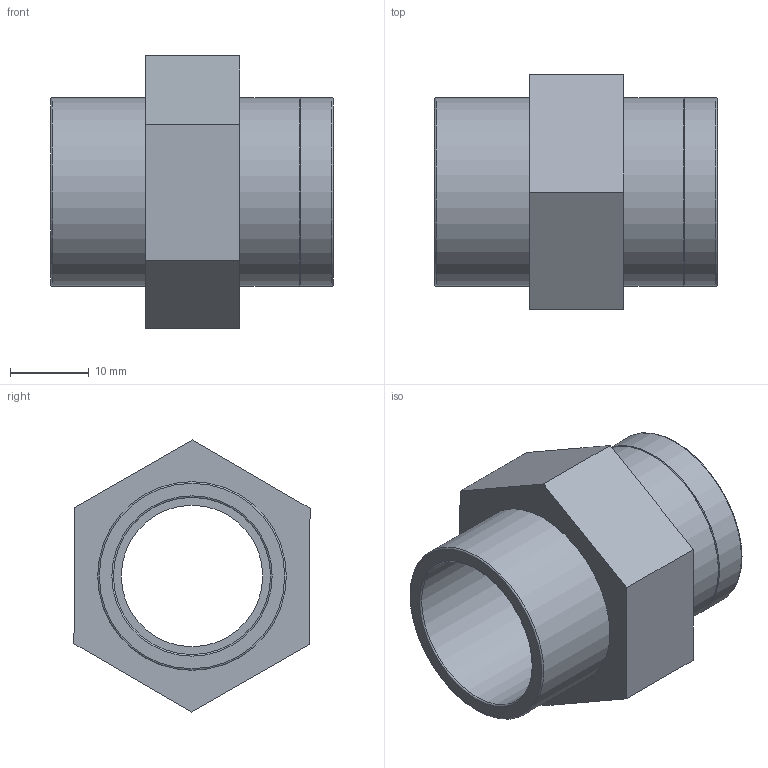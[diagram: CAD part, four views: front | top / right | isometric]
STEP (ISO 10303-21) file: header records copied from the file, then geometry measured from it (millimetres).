
FILE_DESCRIPTION(/* description */ ('PLASSON NOT ACTIVE- AD. SOCKET REINF.PVC 20-1/2'),/* implementation_level */ '2;1');
FILE_NAME(/* name */ 'C:\Dropbox\KIMPROJECTS-Inventor\99-16-3568-Processing\PVC Catalog 2017\057102\057102020005.ipt.stp',/* time_stamp */ '2017-12-07T16:05:22+02:00',/* author */ ('KIM'),/* organization */ (''),/* preprocessor_version */ 'ST-DEVELOPER v15.6',/* originating_system */ 'Autodesk Inventor 2015',/* authorisation */ '');
FILE_SCHEMA (('AUTOMOTIVE_DESIGN { 1 0 10303 214 3 1 1 }'));
Length unit declared in the file: millimetre
Products named in the file (1): 057102020005
Bounding box: 36 x 30.05 x 34.64 mm (x, y, z)
Volume: 9782.8 mm3; surface area: 6259.3 mm2
Topology: 1 solids, 1 shells, 24 faces, 47 edges, 29 vertices
Faces by surface type: plane 12, cylinder 6, torus 4, cone 2
Full cylindrical faces by diameter (mm): 18 x1, 18.631 x1, 20 x1, 24 x3
Entity records: 580 total; most frequent: DIRECTION 102, CARTESIAN_POINT 89, ORIENTED_EDGE 70, EDGE_LOOP 42, AXIS2_PLACEMENT_3D 42, EDGE_CURVE 35, VERTEX_POINT 29, FACE_OUTER_BOUND 24
